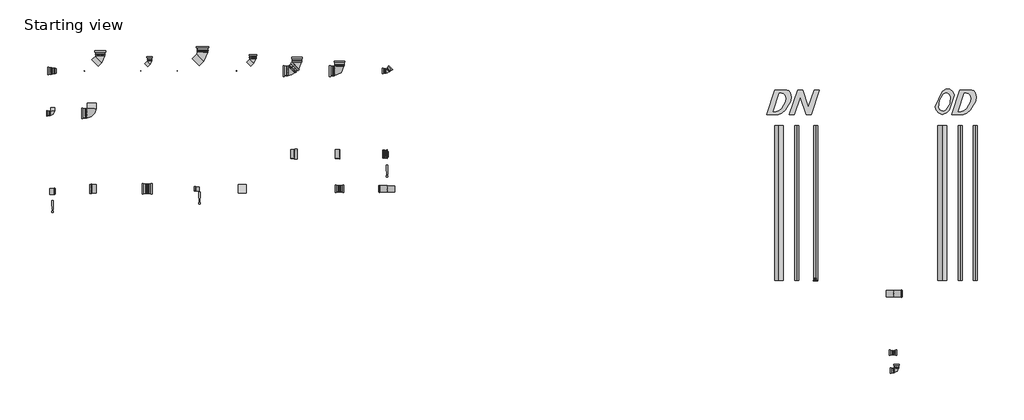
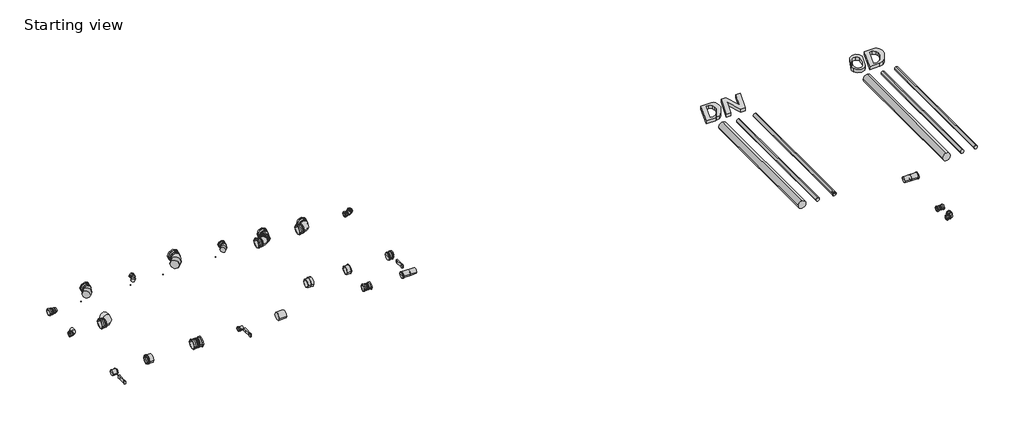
# One storey, incomplete: 30 pipe fittings, 7 pipe segments, 2 flow terminals.
"""IFC4 building model written with IfcOpenShell, lengths in millimetres."""

from ifc_helpers import new_model, si_unit, point, frame, frame_2d, origin, place, context, project, spatial, circle_curve, trimmed, segment, composite_curve, outline, extrude, transform, mapped, element, save
from components import pipelife_dn_pipelife_dn_dacb9fbb, pipelife_od_pipelife_od_c3ca6225, pipe_fitting_f6df4553, pipe_fitting_b924875e, pipe_fitting_4b13026b, pipe_fitting_f07398e3, pipe_fitting_6be5076d, pipe_fitting_667ac77e, pipe_fitting_c991208f, pipe_fitting_5509fd96, pipe_fitting_edb0aff2, pipe_fitting_dec34ee2, pipe_fitting_aa3b7aee, pipe_fitting_5d0570f1, pipe_fitting_90dc489b, pipe_fitting_f768adfa, pipe_fitting_76a2b272, pipe_fitting_6078bbb5, pipe_fitting_ed827aa6, pipe_fitting_9edbee4e, pipe_fitting_ab1770a2, pipe_fitting_761963bc, un_pif_pp_end_cap_threaded_pipelife_dda9cf07, un_pif_pp_end_cap_pipelife_650975d5, un_pif_pp_end_cap_pipelife_9d9f2e3f, un_pif_pp_insert_reducer_pipelife_241dbe82, un_pif_pp_insert_socket_pipelife_a1a1d698, un_pif_pp_multireducer_pipelife_35e17b16, un_pif_pp_repair_coupler_pipelife_34faee59, un_pif_pp_repair_coupler_pipelife_4e795297, un_pif_pp_socket_extended_pipelife_7ef3b572, un_pif_pp_socket_extended_pipelife_c8d7b6f2, pipe_segment_e604f89e

model = new_model("IFC4")

# Units and contexts
model_context = context("Model", 3, world=origin())
ifc_project = project(units=[si_unit("LENGTHUNIT", "METRE", prefix="MILLI")], contexts=[model_context])

# Site, building, storey
site = spatial("IfcSite", under=ifc_project)
building = spatial("IfcBuilding", under=site)
storey = spatial("IfcBuildingStorey", under=building, Name="Starting view", Elevation=0.0)

# Flow terminals
placement = place(None, origin())
pipelife_dn_pipelife_dn_shape = pipelife_dn_pipelife_dn_dacb9fbb(model_context)
element("IfcFlowTerminal", 1, ObjectType="PipeLife_DN : PipeLife_DN", at=placement, inside=storey, context=model_context, shape_type="MappedRepresentation", body=[
    mapped(pipelife_dn_pipelife_dn_shape, transform((5958.7063136, 2998.2694372, 0.0), x_axis=(1.0, 0.0, 0.0), y_axis=(0.0, 1.0, 0.0), z_axis=(0.0, 0.0, 1.0))),
])
pipelife_od_pipelife_od_shape = pipelife_od_pipelife_od_c3ca6225(model_context)
element("IfcFlowTerminal", 2, ObjectType="PipeLife_OD : PipeLife_OD", at=placement, inside=storey, context=model_context, shape_type="MappedRepresentation", body=[
    mapped(pipelife_od_pipelife_od_shape, transform((7938.7063136, 2998.2694372, 0.0), x_axis=(1.0, 0.0, 0.0), y_axis=(0.0, 1.0, 0.0), z_axis=(0.0, 0.0, 1.0))),
])

# Pipe fittings
pipe_fitting_shape = pipe_fitting_f6df4553(model_context)
element("IfcPipeFitting", 3, ObjectType="UN_PIF_PP bend S-S_PipeLife : Black, var. DN/OD (max. ø125)", at=placement, inside=storey, context=model_context, shape_type="MappedRepresentation", body=[
    mapped(pipe_fitting_shape, transform((367.5465623, 3534.5851923, 0.0), x_axis=(1.0, 0.0, 0.0), y_axis=(0.0, 1.0, 0.0), z_axis=(0.0, 0.0, 1.0))),
])
pipe_fitting_2_shape = pipe_fitting_b924875e(model_context)
element("IfcPipeFitting", 4, ObjectType="UN_PIF_PP bend S-Sp_PipeLife : Black, var. DN/OD (max. ø125)", at=placement, inside=storey, context=model_context, shape_type="MappedRepresentation", body=[
    mapped(pipe_fitting_2_shape, transform((-3181.2851208, 3009.2294447, 0.0), x_axis=(1.0, 0.0, 0.0), y_axis=(0.0, 1.0, 0.0), z_axis=(0.0, 0.0, 1.0))),
])
pipe_fitting_3_shape = pipe_fitting_4b13026b(model_context)
element("IfcPipeFitting", 5, ObjectType="UN_PIF_PP insert reducer verjongd_PipeLife : Black, var. DN/OD (max. ø125)", at=placement, inside=storey, context=model_context, shape_type="MappedRepresentation", body=[
    mapped(pipe_fitting_3_shape, transform((957.2315852, 2505.3167888, 0.0), x_axis=(1.0, 0.0, 0.0), y_axis=(0.0, 1.0, 0.0), z_axis=(0.0, 0.0, 1.0))),
])
pipe_fitting_4_shape = pipe_fitting_f07398e3(model_context)
element("IfcPipeFitting", 6, ObjectType="UN_PIF_PP adapter socket verjongd_PipeLife : Black, var. DN/OD (max. ø125)", at=placement, inside=storey, context=model_context, shape_type="MappedRepresentation", body=[
    mapped(pipe_fitting_4_shape, transform((-3181.2851208, 3534.5851923, 0.0), x_axis=(1.0, 0.0, 0.0), y_axis=(0.0, 1.0, 0.0), z_axis=(0.0, 0.0, 1.0))),
])
pipe_fitting_5_shape = pipe_fitting_6be5076d(model_context)
element("IfcPipeFitting", 7, ObjectType="UN_PIF_PP assembled branch S-S_equal_PipeLife : Black, var. DN/OD (max. ø125)", at=placement, inside=storey, context=model_context, shape_type="MappedRepresentation", body=[
    mapped(pipe_fitting_5_shape, transform((-2591.6000979, 3534.5851923, 0.0), x_axis=(1.0, 0.0, 0.0), y_axis=(0.0, 1.0, 0.0), z_axis=(0.0, 0.0, 1.0))),
])
pipe_fitting_6_shape = pipe_fitting_667ac77e(model_context)
element("IfcPipeFitting", 8, ObjectType="UN_PIF_PP bend S-Sp_SH_PipeLife : Black, var. DN/OD (max. ø125, nested)", at=placement, inside=storey, context=model_context, shape_type="MappedRepresentation", body=[
    mapped(pipe_fitting_6_shape, transform((-2698.8155566, 3009.2294447, 0.0), x_axis=(1.0, 0.0, 0.0), y_axis=(0.0, 1.0, 0.0), z_axis=(0.0, 0.0, 1.0))),
])
pipe_fitting_7_shape = pipe_fitting_c991208f(model_context)
element("IfcPipeFitting", 9, ObjectType="UN_PIF_PP assembled branch S-Sp_equal_PipeLife : Black, var. DN/OD (max. ø125)", at=placement, inside=storey, context=model_context, shape_type="MappedRepresentation", body=[
    mapped(pipe_fitting_7_shape, transform((-1326.4576852, 3534.5851923, 0.0), x_axis=(1.0, 0.0, 0.0), y_axis=(0.0, 1.0, 0.0), z_axis=(0.0, 0.0, 1.0))),
])
pipe_fitting_8_shape = pipe_fitting_5509fd96(model_context)
element("IfcPipeFitting", 10, ObjectType="UN_PIF_PP assembled branch S-S_reducing_PipeLife : Black, var. DN/OD (max. ø125)", at=placement, inside=storey, context=model_context, shape_type="MappedRepresentation", body=[
    mapped(pipe_fitting_8_shape, transform((-1980.4719833, 3534.5851923, 0.0), x_axis=(1.0, 0.0, 0.0), y_axis=(0.0, 1.0, 0.0), z_axis=(0.0, 0.0, 1.0))),
])
pipe_fitting_9_shape = pipe_fitting_edb0aff2(model_context)
element("IfcPipeFitting", 11, ObjectType="UN_PIF_PP assembled branch S-Sp_reducing_PipeLife : Black, var. DN/OD (max. ø125)", at=placement, inside=storey, context=model_context, shape_type="MappedRepresentation", body=[
    mapped(pipe_fitting_9_shape, transform((-704.6080247, 3534.5851923, 0.0), x_axis=(1.0, 0.0, 0.0), y_axis=(0.0, 1.0, 0.0), z_axis=(0.0, 0.0, 1.0))),
])
pipe_fitting_10_shape = pipe_fitting_dec34ee2(model_context)
element("IfcPipeFitting", 12, ObjectType="UN_PIF_PP insert reducer_SH_PipeLife : Black, var. DN/OD (max. ø125, nested)", at=placement, inside=storey, context=model_context, shape_type="MappedRepresentation", body=[
    mapped(pipe_fitting_10_shape, transform((-2698.8155566, 2076.4549539, 0.0), x_axis=(1.0, 0.0, 0.0), y_axis=(0.0, 1.0, 0.0), z_axis=(0.0, 0.0, 1.0))),
])
pipe_fitting_11_shape = pipe_fitting_aa3b7aee(model_context)
element("IfcPipeFitting", 13, ObjectType="UN_PIF_PP bend S-S_SH_PipeLife : Black, var. DN/OD (max. ø125, nested)", at=placement, inside=storey, context=model_context, shape_type="MappedRepresentation", body=[
    mapped(pipe_fitting_11_shape, transform((957.2315852, 3534.5851923, 0.0), x_axis=(1.0, 0.0, 0.0), y_axis=(0.0, 1.0, 0.0), z_axis=(0.0, 0.0, 1.0))),
])
pipe_fitting_12_shape = pipe_fitting_5d0570f1(model_context)
element("IfcPipeFitting", 14, ObjectType="UN_PIF_PP bend 2x45° S-S-S-Sp_PipeLife : Black, var. DN/OD (max. ø125)", at=placement, inside=storey, context=model_context, shape_type="MappedRepresentation", body=[
    mapped(pipe_fitting_12_shape, transform((-157.8091853, 3534.5851923, 0.0), x_axis=(1.0, 0.0, 0.0), y_axis=(0.0, 1.0, 0.0), z_axis=(0.0, 0.0, 1.0))),
])
pipe_fitting_13_shape = pipe_fitting_90dc489b(model_context)
element("IfcPipeFitting", 15, ObjectType="UN_PIF_PP bend S-S_PipeLife : Black, var. DN/OD (max. ø125)", at=placement, inside=storey, context=model_context, shape_type="MappedRepresentation", body=[
    mapped(pipe_fitting_13_shape, transform((7256.6288202, -173.3712244, 0.0), x_axis=(1.0, 0.0, 0.0), y_axis=(0.0, 1.0, 0.0), z_axis=(0.0, 0.0, 1.0))),
])
pipe_fitting_14_shape = pipe_fitting_f768adfa(model_context)
element("IfcPipeFitting", 16, ObjectType="UN_PIF_PP bend S-Sp_SH_PipeLife : Black, var. DN/OD (max. ø125, nested)", at=placement, inside=storey, context=model_context, shape_type="MappedRepresentation", body=[
    mapped(pipe_fitting_14_shape, transform((-2591.6000979, 3697.7854374, 0.0), x_axis=(0.0, -1.0000000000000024, 0.0), y_axis=(1.0000000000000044, 0.0, 0.0), z_axis=(0.0, 0.0, 1.000000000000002))),
])
pipe_fitting_15_shape = pipe_fitting_76a2b272(model_context)
element("IfcPipeFitting", 17, ObjectType="UN_PIF_PP bend S-Sp_SH_PipeLife : Black, var. DN/OD (max. ø125, nested)", at=placement, inside=storey, context=model_context, shape_type="MappedRepresentation", body=[
    mapped(pipe_fitting_15_shape, transform((-1980.4719833, 3650.1264403, 0.0), x_axis=(0.0, -1.0000000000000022, 0.0), y_axis=(1.000000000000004, 0.0, 0.0), z_axis=(0.0, 0.0, 1.0000000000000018))),
])
pipe_fitting_16_shape = pipe_fitting_6078bbb5(model_context)
element("IfcPipeFitting", 18, ObjectType="UN_PIF_PP bend S-Sp_SH_PipeLife : Black, var. DN/OD (max. ø125, nested)", at=placement, inside=storey, context=model_context, shape_type="MappedRepresentation", body=[
    mapped(pipe_fitting_16_shape, transform((-1326.4576852, 3730.9487454, 0.0), x_axis=(0.0, -1.0000000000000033, 0.0), y_axis=(1.0000000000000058, 0.0, 0.0), z_axis=(0.0, 0.0, 1.0000000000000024))),
])
pipe_fitting_17_shape = pipe_fitting_ed827aa6(model_context)
element("IfcPipeFitting", 19, ObjectType="UN_PIF_PP bend S-Sp_SH_PipeLife : Black, var. DN/OD (max. ø125, nested)", at=placement, inside=storey, context=model_context, shape_type="MappedRepresentation", body=[
    mapped(pipe_fitting_17_shape, transform((-704.6080247, 3670.5618263, 0.0), x_axis=(0.0, -1.0000000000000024, 0.0), y_axis=(1.0000000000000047, 0.0, 0.0), z_axis=(0.0, 0.0, 1.0000000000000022))),
])
pipe_fitting_18_shape = pipe_fitting_9edbee4e(model_context)
element("IfcPipeFitting", 20, ObjectType="UN_PIF_PP bend S-Sp_SH_PipeLife : Black, var. DN/OD (max. ø125, nested)", at=placement, inside=storey, context=model_context, shape_type="MappedRepresentation", body=[
    mapped(pipe_fitting_18_shape, transform((-157.8091853, 3618.0237925, 0.0), x_axis=(0.7071067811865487, 0.7071067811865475, 0.0), y_axis=(-0.7071067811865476, 0.7071067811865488, 0.0), z_axis=(0.0, 0.0, 1.0000000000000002))),
])
pipe_fitting_19_shape = pipe_fitting_ab1770a2(model_context)
element("IfcPipeFitting", 21, ObjectType="UN_PIF_PP bend S-S_SH_PipeLife : Black, var. DN/OD (max. ø125, nested)", at=placement, inside=storey, context=model_context, shape_type="MappedRepresentation", body=[
    mapped(pipe_fitting_19_shape, transform((-241.2477855, 3534.5851923, 0.0), x_axis=(1.0, 0.0, 0.0), y_axis=(0.0, 1.0, 0.0), z_axis=(0.0, 0.0, 1.0))),
])
pipe_fitting_20_shape = pipe_fitting_761963bc(model_context)
element("IfcPipeFitting", 22, ObjectType="UN_PIF_PP insert reducer_SH_PipeLife : Black, var. DN/OD (max. ø125, nested)", at=placement, inside=storey, context=model_context, shape_type="MappedRepresentation", body=[
    mapped(pipe_fitting_20_shape, transform((-1413.3154145, 2076.4549539, 0.0), x_axis=(1.0000000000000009, 0.0, 0.0), y_axis=(0.0, 1.0000000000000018, 0.0), z_axis=(0.0, 0.0, 1.0000000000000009))),
])
un_pif_pp_end_cap_threaded_pipelife_shape = un_pif_pp_end_cap_threaded_pipelife_dda9cf07(model_context)
element("IfcPipeFitting", 23, ObjectType="UN_PIF_PP end cap threaded_PipeLife : Black, ø110", at=placement, inside=storey, context=model_context, shape_type="MappedRepresentation", body=[
    mapped(un_pif_pp_end_cap_threaded_pipelife_shape, transform((-157.8091853, 2505.3167888, 0.0), x_axis=(1.0, 0.0, 0.0), y_axis=(0.0, 1.0, 0.0), z_axis=(0.0, 0.0, 1.0))),
])
un_pif_pp_end_cap_pipelife_shape = un_pif_pp_end_cap_pipelife_650975d5(model_context)
element("IfcPipeFitting", 24, ObjectType="UN_PIF_PP end cap_PipeLife : Black, var. DN/OD (max. ø125)", at=placement, inside=storey, context=model_context, shape_type="MappedRepresentation", body=[
    mapped(un_pif_pp_end_cap_pipelife_shape, transform((367.5465623, 2505.3167888, 0.0), x_axis=(1.0, 0.0, 0.0), y_axis=(0.0, 1.0, 0.0), z_axis=(0.0, 0.0, 1.0))),
])
un_pif_pp_end_cap_pipelife_2_shape = un_pif_pp_end_cap_pipelife_9d9f2e3f(model_context)
element("IfcPipeFitting", 25, ObjectType="UN_PIF_PP end cap_PipeLife : Black, var. DN/OD (max. ø125)", at=placement, inside=storey, context=model_context, shape_type="MappedRepresentation", body=[
    mapped(un_pif_pp_end_cap_pipelife_2_shape, transform((6256.0497086, 940.8849051, 0.0), x_axis=(0.0, -1.0, 0.0), y_axis=(1.0, 0.0, 0.0), z_axis=(0.0, 0.0, 1.0))),
])
un_pif_pp_insert_reducer_pipelife_shape = un_pif_pp_insert_reducer_pipelife_241dbe82(model_context)
element("IfcPipeFitting", 26, ObjectType="UN_PIF_PP insert reducer_PipeLife : Black, var. DN/OD (max. ø125)", at=placement, inside=storey, context=model_context, shape_type="MappedRepresentation", body=[
    mapped(un_pif_pp_insert_reducer_pipelife_shape, transform((-3181.2851208, 2044.2903163, 0.0), x_axis=(1.0, 0.0, 0.0), y_axis=(0.0, 1.0, 0.0), z_axis=(0.0, 0.0, 1.0))),
])
un_pif_pp_insert_socket_pipelife_shape = un_pif_pp_insert_socket_pipelife_a1a1d698(model_context)
element("IfcPipeFitting", 27, ObjectType="UN_PIF_PP insert socket_PipeLife : Black, var. DN/OD (max. ø125)", at=placement, inside=storey, context=model_context, shape_type="MappedRepresentation", body=[
    mapped(un_pif_pp_insert_socket_pipelife_shape, transform((-2012.6366209, 2076.4549539, 0.0), x_axis=(1.0, 0.0, 0.0), y_axis=(0.0, 1.0, 0.0), z_axis=(0.0, 0.0, 1.0))),
])
un_pif_pp_multireducer_pipelife_shape = un_pif_pp_multireducer_pipelife_35e17b16(model_context)
element("IfcPipeFitting", 28, ObjectType="UN_PIF_PP multireducer_PipeLife : Black, var. DN/OD (max. ø125)", at=placement, inside=storey, context=model_context, shape_type="MappedRepresentation", body=[
    mapped(un_pif_pp_multireducer_pipelife_shape, transform((-1392.8154145, 2076.4549539, 0.0), x_axis=(1.0, 0.0, 0.0), y_axis=(0.0, 1.0, 0.0), z_axis=(0.0, 0.0, 1.0))),
])
un_pif_pp_repair_coupler_pipelife_shape = un_pif_pp_repair_coupler_pipelife_34faee59(model_context)
element("IfcPipeFitting", 29, ObjectType="UN_PIF_PP repair coupler_PipeLife : Black, var. DN/OD (max. ø125)", at=placement, inside=storey, context=model_context, shape_type="MappedRepresentation", body=[
    mapped(un_pif_pp_repair_coupler_pipelife_shape, transform((367.5465623, 2076.4549539, 0.0), x_axis=(1.0, 0.0, 0.0), y_axis=(0.0, 1.0, 0.0), z_axis=(0.0, 0.0, 1.0))),
])
un_pif_pp_repair_coupler_pipelife_2_shape = un_pif_pp_repair_coupler_pipelife_4e795297(model_context)
element("IfcPipeFitting", 30, ObjectType="UN_PIF_PP repair coupler_PipeLife : White, var. DN/OD (max. ø50)", at=placement, inside=storey, context=model_context, shape_type="MappedRepresentation", body=[
    mapped(un_pif_pp_repair_coupler_pipelife_2_shape, transform((7215.8562575, 45.774964, 0.0), x_axis=(1.0, 0.0, 0.0), y_axis=(0.0, 1.0, 0.0), z_axis=(0.0, 0.0, 1.0))),
])
un_pif_pp_socket_extended_pipelife_shape = un_pif_pp_socket_extended_pipelife_7ef3b572(model_context)
element("IfcPipeFitting", 31, ObjectType="UN_PIF_PP socket extended_PipeLife : Black, var. DN/OD (max. ø125)", at=placement, inside=storey, context=model_context, shape_type="MappedRepresentation", body=[
    mapped(un_pif_pp_socket_extended_pipelife_shape, transform((957.2315852, 2076.4549539, 0.0), x_axis=(1.0, 0.0, 0.0), y_axis=(0.0, 1.0, 0.0), z_axis=(0.0, 0.0, 1.0))),
])
un_pif_pp_socket_extended_pipelife_2_shape = un_pif_pp_socket_extended_pipelife_c8d7b6f2(model_context)
element("IfcPipeFitting", 32, ObjectType="UN_PIF_PP socket extended_PipeLife : Black, var. DN/OD (max. ø125)", at=placement, inside=storey, context=model_context, shape_type="MappedRepresentation", body=[
    mapped(un_pif_pp_socket_extended_pipelife_2_shape, transform((7223.7063136, 778.3027133, 0.0), x_axis=(1.0, 0.0, 0.0), y_axis=(0.0, 1.0, 0.0), z_axis=(0.0, 0.0, 1.0))),
])

# Pipe segments
element("IfcPipeSegment", 33, ObjectType="NLRS_52_PI_PP Bruin DN_PipeLife", at=placement, inside=storey, context=model_context, shape_type="SweptSolid", body=[
    extrude(outline(composite_curve([segment(trimmed(circle_curve(frame_2d((0.0, 5803.7063136)), 55.0), [point((0.0, 5748.7063136))], [point((-55.0, 5803.7063136))], False, "CARTESIAN"), True, "CONTINUOUS"), segment(trimmed(circle_curve(frame_2d((0.0, 5803.7063136)), 55.0), [point((-55.0, 5803.7063136))], [point((0.0, 5858.7063136))], False, "CARTESIAN"), True, "CONTINUOUS"), segment(trimmed(circle_curve(frame_2d((0.0, 5803.7063136)), 55.0), [point((0.0, 5858.7063136))], [point((55.0, 5803.7063136))], False, "CARTESIAN"), True, "CONTINUOUS"), segment(trimmed(circle_curve(frame_2d((0.0, 5803.7063136)), 55.0), [point((55.0, 5803.7063136))], [point((0.0, 5748.7063136))], False, "CARTESIAN"), True, "CONTINUOUS")], self_intersect=False)), frame((0.0, 940.8849051, 0.0), z_axis=(0.0, 1.0, 0.0), x_axis=(0.0, 0.0, 1.0)), (0.0, 0.0, 1.0), 1920.0),
])
element("IfcPipeSegment", 34, ObjectType="NLRS_52_PI_PP Wit DN_PipeLife", at=placement, inside=storey, context=model_context, shape_type="SweptSolid", body=[
    extrude(outline(composite_curve([segment(trimmed(circle_curve(frame_2d((0.0, 6023.7063136)), 25.0), [point((0.0, 5998.7063136))], [point((-25.0, 6023.7063136))], False, "CARTESIAN"), True, "CONTINUOUS"), segment(trimmed(circle_curve(frame_2d((0.0, 6023.7063136)), 25.0), [point((-25.0, 6023.7063136))], [point((0.0, 6048.7063136))], False, "CARTESIAN"), True, "CONTINUOUS"), segment(trimmed(circle_curve(frame_2d((0.0, 6023.7063136)), 25.0), [point((0.0, 6048.7063136))], [point((25.0, 6023.7063136))], False, "CARTESIAN"), True, "CONTINUOUS"), segment(trimmed(circle_curve(frame_2d((0.0, 6023.7063136)), 25.0), [point((25.0, 6023.7063136))], [point((0.0, 5998.7063136))], False, "CARTESIAN"), True, "CONTINUOUS")], self_intersect=False)), frame((0.0, 940.8849051, 0.0), z_axis=(0.0, 1.0, 0.0), x_axis=(0.0, 0.0, 1.0)), (0.0, 0.0, 1.0), 1920.0),
])
element("IfcPipeSegment", 35, ObjectType="NLRS_52_PI_PP Bruin OD_PipeLife", at=placement, inside=storey, context=model_context, shape_type="SweptSolid", body=[
    extrude(outline(composite_curve([segment(trimmed(circle_curve(frame_2d((0.0, 7823.7063136)), 55.0), [point((0.0, 7878.7063136))], [point((55.0, 7823.7063136))], False, "CARTESIAN"), True, "CONTINUOUS"), segment(trimmed(circle_curve(frame_2d((0.0, 7823.7063136)), 55.0), [point((55.0, 7823.7063136))], [point((0.0, 7768.7063136))], False, "CARTESIAN"), True, "CONTINUOUS"), segment(trimmed(circle_curve(frame_2d((0.0, 7823.7063136)), 55.0), [point((0.0, 7768.7063136))], [point((-55.0, 7823.7063136))], False, "CARTESIAN"), True, "CONTINUOUS"), segment(trimmed(circle_curve(frame_2d((0.0, 7823.7063136)), 55.0), [point((-55.0, 7823.7063136))], [point((0.0, 7878.7063136))], False, "CARTESIAN"), True, "CONTINUOUS")], self_intersect=False)), frame((0.0, 940.8849051, 0.0), z_axis=(0.0, 1.0, 0.0), x_axis=(0.0, 0.0, 1.0)), (0.0, 0.0, 1.0), 1920.0),
])
element("IfcPipeSegment", 36, ObjectType="NLRS_52_PI_PP Wit OD_PipeLife", at=placement, inside=storey, context=model_context, shape_type="SweptSolid", body=[
    extrude(outline(composite_curve([segment(trimmed(circle_curve(frame_2d((0.0, 8043.7063136)), 25.0), [point((0.0, 8018.7063136))], [point((-25.0, 8043.7063136))], False, "CARTESIAN"), True, "CONTINUOUS"), segment(trimmed(circle_curve(frame_2d((0.0, 8043.7063136)), 25.0), [point((-25.0, 8043.7063136))], [point((0.0, 8068.7063136))], False, "CARTESIAN"), True, "CONTINUOUS"), segment(trimmed(circle_curve(frame_2d((0.0, 8043.7063136)), 25.0), [point((0.0, 8068.7063136))], [point((25.0, 8043.7063136))], False, "CARTESIAN"), True, "CONTINUOUS"), segment(trimmed(circle_curve(frame_2d((0.0, 8043.7063136)), 25.0), [point((25.0, 8043.7063136))], [point((0.0, 8018.7063136))], False, "CARTESIAN"), True, "CONTINUOUS")], self_intersect=False)), frame((0.0, 940.8849051, 0.0), z_axis=(0.0, 1.0, 0.0), x_axis=(0.0, 0.0, 1.0)), (0.0, 0.0, 1.0), 1920.0),
])
element("IfcPipeSegment", 37, ObjectType="NLRS_52_PI_PP Zwart OD_PipeLife", at=placement, inside=storey, context=model_context, shape_type="SweptSolid", body=[
    extrude(outline(composite_curve([segment(trimmed(circle_curve(frame_2d((0.0, 8233.7063136)), 25.0), [point((0.0, 8208.7063136))], [point((-25.0, 8233.7063136))], False, "CARTESIAN"), True, "CONTINUOUS"), segment(trimmed(circle_curve(frame_2d((0.0, 8233.7063136)), 25.0), [point((-25.0, 8233.7063136))], [point((0.0, 8258.7063136))], False, "CARTESIAN"), True, "CONTINUOUS"), segment(trimmed(circle_curve(frame_2d((0.0, 8233.7063136)), 25.0), [point((0.0, 8258.7063136))], [point((25.0, 8233.7063136))], False, "CARTESIAN"), True, "CONTINUOUS"), segment(trimmed(circle_curve(frame_2d((0.0, 8233.7063136)), 25.0), [point((25.0, 8233.7063136))], [point((0.0, 8208.7063136))], False, "CARTESIAN"), True, "CONTINUOUS")], self_intersect=False)), frame((0.0, 940.8849051, 0.0), z_axis=(0.0, 1.0, 0.0), x_axis=(0.0, 0.0, 1.0)), (0.0, 0.0, 1.0), 1920.0),
])
element("IfcPipeSegment", 38, ObjectType="NLRS_52_PI_PP Zwart DN_PipeLife", at=placement, inside=storey, context=model_context, shape_type="SweptSolid", body=[
    extrude(outline(composite_curve([segment(trimmed(circle_curve(frame_2d((0.0, 6256.0497086)), 25.0), [point((0.0, 6231.0497086))], [point((-25.0, 6256.0497086))], False, "CARTESIAN"), True, "CONTINUOUS"), segment(trimmed(circle_curve(frame_2d((0.0, 6256.0497086)), 25.0), [point((-25.0, 6256.0497086))], [point((0.0, 6281.0497086))], False, "CARTESIAN"), True, "CONTINUOUS"), segment(trimmed(circle_curve(frame_2d((0.0, 6256.0497086)), 25.0), [point((0.0, 6281.0497086))], [point((25.0, 6256.0497086))], False, "CARTESIAN"), True, "CONTINUOUS"), segment(trimmed(circle_curve(frame_2d((0.0, 6256.0497086)), 25.0), [point((25.0, 6256.0497086))], [point((0.0, 6231.0497086))], False, "CARTESIAN"), True, "CONTINUOUS")], self_intersect=False)), frame((0.0, 940.8849051, 0.0), z_axis=(0.0, 1.0, 0.0), x_axis=(0.0, 0.0, 1.0)), (0.0, 0.0, 1.0), 1920.0),
])
pipe_segment_shape = pipe_segment_e604f89e(model_context)
element("IfcPipeSegment", 39, ObjectType="UN_PIF_PP pipe adapter_SH_PipeLife : var. DN/OD (max. ø125, nested)", at=placement, inside=storey, context=model_context, shape_type="MappedRepresentation", body=[
    mapped(pipe_segment_shape, transform((-833.2665752, 2076.4549539, 0.0), x_axis=(1.0, 0.0, 0.0), y_axis=(0.0, 1.0, 0.0), z_axis=(0.0, 0.0, 1.0))),
])

save(model, "model.ifc")
